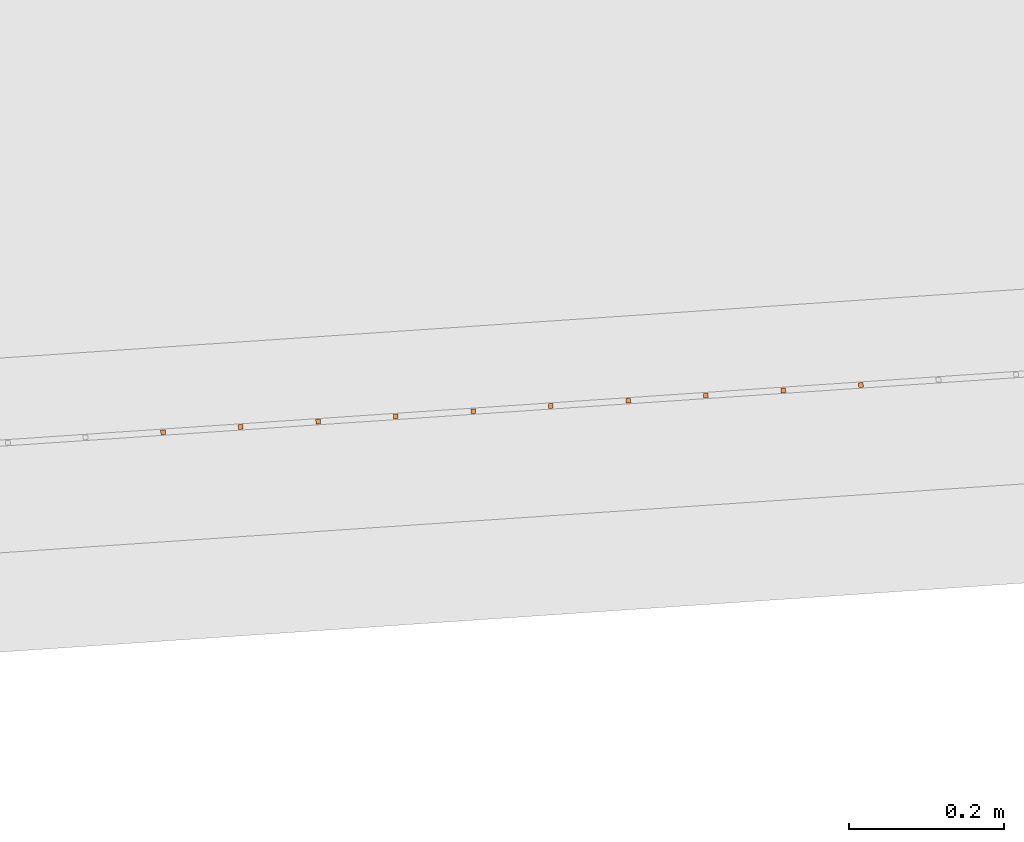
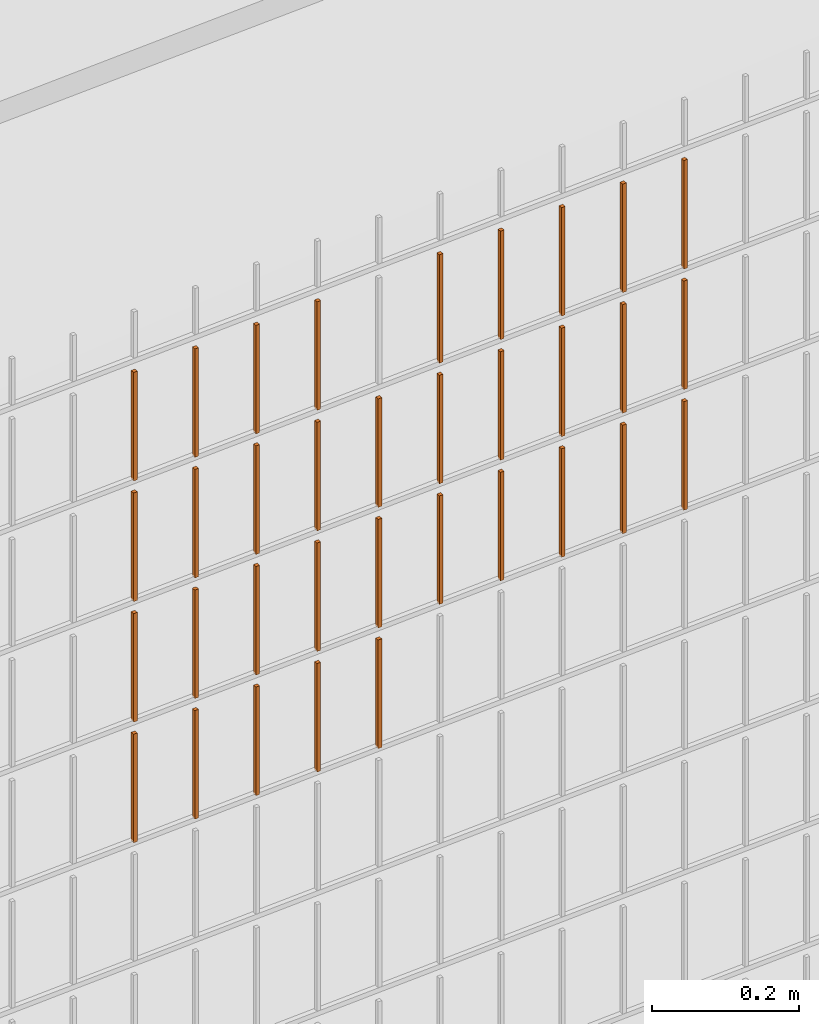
# One storey, part 268 of 1809: 34 proxies, 1 element without a shape of its own.
"""IFC2X3 building model written with IfcOpenShell, lengths in millimetres."""

from ifc_helpers import new_model, entity, si_unit, converted_unit, derived_unit, money_unit, direction, frame, origin_with_axes, place, context, subcontext, project, spatial, faceted_brep, source, transform, mapped, material, type_object, element, aggregate, save


model = new_model("IFC2X3")

# Units and contexts
model_context = context("Model", 3, precision=0.01, world=origin_with_axes(), true_north=direction((0.0, 1.0)))
body_context = subcontext(model_context, "Body", "Model", "MODEL_VIEW")
ifc_project = project(units=[si_unit("LENGTHUNIT", "METRE", prefix="MILLI"), si_unit("AREAUNIT", "SQUARE_METRE"), si_unit("VOLUMEUNIT", "CUBIC_METRE"), converted_unit("PLANEANGLEUNIT", "DEGREE", entity("IfcPlaneAngleMeasure", 0.0174532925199), si_unit("PLANEANGLEUNIT", "RADIAN"), dimensions=[0, 0, 0, 0, 0, 0, 0]), si_unit("SOLIDANGLEUNIT", "STERADIAN"), money_unit("EUR"), converted_unit("TIMEUNIT", "Year", entity("IfcTimeMeasure", 31556926.0), si_unit("TIMEUNIT", "SECOND"), dimensions=[0, 0, 1, 0, 0, 0, 0]), si_unit("MASSUNIT", "GRAM", prefix="KILO"), si_unit("THERMODYNAMICTEMPERATUREUNIT", "DEGREE_CELSIUS"), si_unit("LUMINOUSINTENSITYUNIT", "LUMEN"), si_unit("ENERGYUNIT", "JOULE", prefix="MEGA"), derived_unit("THERMALCONDUCTANCEUNIT", [(si_unit("POWERUNIT", "WATT"), 1), (si_unit("LENGTHUNIT", "METRE"), -1), (si_unit("THERMODYNAMICTEMPERATUREUNIT", "KELVIN"), -1)]), derived_unit("SPECIFICHEATCAPACITYUNIT", [(si_unit("ENERGYUNIT", "JOULE"), 1), (si_unit("MASSUNIT", "GRAM", prefix="KILO"), -1), (si_unit("THERMODYNAMICTEMPERATUREUNIT", "KELVIN"), -1)]), derived_unit("MASSDENSITYUNIT", [(si_unit("MASSUNIT", "GRAM", prefix="KILO"), 1), (si_unit("VOLUMEUNIT", "CUBIC_METRE"), -1)])], contexts=[model_context])

# Site, building, storey
site_placement = place(None, origin_with_axes())
site = spatial("IfcSite", under=ifc_project, at=site_placement, Name="Politse- ja Piirivalveameti ning Päästeameti ühishoone", CompositionType="ELEMENT")
building_placement = place(site_placement, origin_with_axes())
building = spatial("IfcBuilding", under=site, at=building_placement, Name="Politse- ja Piirivalveameti ning Päästeameti ühishoone", CompositionType="ELEMENT")
storey_placement = place(building_placement, origin_with_axes())
storey = spatial("IfcBuildingStorey", under=building, at=storey_placement, Name="Esimene korrus", CompositionType="ELEMENT", Elevation=0.0)

# Proxies
building_element_proxy_type_1 = type_object("IfcBuildingElementProxyType", Name="Railing Type", PredefinedType="NOTDEFINED")
proxy_1_placement = place(storey_placement, frame((89252.001212, -29183.4766571, 203.661247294), z_axis=(0.0, 0.0, 1.0), x_axis=(1.0, 0.0, 0.0)))
proxy_1 = element("IfcBuildingElementProxy", 1, at=proxy_1_placement, inside=storey, type_object=building_element_proxy_type_1, Name="PIIRDEAED")
ifc_material = material(Name="ET-03_Raud")
building_element_proxy_type_2 = type_object("IfcBuildingElementProxyType", Name="IfcBuildingElementProxy", PredefinedType="NOTDEFINED")
shared_shape_1 = source(origin_with_axes(), body_context, "Body", "Brep", [
    faceted_brep([(3.0, 3.0, -0.000752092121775), (-3.0, 3.0, -0.000752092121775), (-3.0, 3.0, 179.99926046), (3.0, 3.0, 179.99926046), (3.0, -3.0, 0.000752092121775), (-3.0, -3.0, 0.000752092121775), (-3.0, -3.0, 180.000764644), (3.0, -3.0, 180.000764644)], [[[0, 1, 2, 3]], [[0, 4, 5, 1]], [[1, 5, 6, 2]], [[3, 2, 6, 7]], [[4, 0, 3, 7]], [[5, 4, 7, 6]]]),
])
proxy_2_placement = place(proxy_1_placement, frame((-55799.5403352, -21066.8231314, 1813.2137117), z_axis=(0.0, 0.0, 1.0), x_axis=(1.0, 0.0, 0.0)))
proxy_2 = element("IfcBuildingElementProxy", 2, at=proxy_2_placement, type_object=building_element_proxy_type_2, material=ifc_material, Name="BALUSTER - 001", context=body_context, shape_type="MappedRepresentation", body=[
    mapped(shared_shape_1, transform((0.0, 0.0, 0.0), x_axis=(-0.0673926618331, 0.997726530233, 0.0), y_axis=(-0.997726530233, -0.0673926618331, 0.0), z_axis=(0.0, 0.0, 1.0))),
])
shared_shape_2 = source(origin_with_axes(), body_context, "Body", "Brep", [
    faceted_brep([(3.0, 3.0, -0.000752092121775), (-3.0, 3.0, -0.000752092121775), (-3.0, 3.0, 179.99926046), (3.0, 3.0, 179.99926046), (3.0, -3.0, 0.000752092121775), (-3.0, -3.0, 0.000752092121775), (-3.0, -3.0, 180.000764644), (3.0, -3.0, 180.000764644)], [[[0, 1, 2, 3]], [[0, 4, 5, 1]], [[1, 5, 6, 2]], [[3, 2, 6, 7]], [[4, 0, 3, 7]], [[5, 4, 7, 6]]]),
])
proxy_3_placement = place(proxy_1_placement, frame((-55799.5403352, -21066.8231314, 1213.2137117), z_axis=(0.0, 0.0, 1.0), x_axis=(1.0, 0.0, 0.0)))
proxy_3 = element("IfcBuildingElementProxy", 3, at=proxy_3_placement, type_object=building_element_proxy_type_2, material=ifc_material, Name="BALUSTER - 001", context=body_context, shape_type="MappedRepresentation", body=[
    mapped(shared_shape_2, transform((0.0, 0.0, 0.0), x_axis=(-0.0673926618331, 0.997726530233, 0.0), y_axis=(-0.997726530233, -0.0673926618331, 0.0), z_axis=(0.0, 0.0, 1.0))),
])
shared_shape_3 = source(origin_with_axes(), body_context, "Body", "Brep", [
    faceted_brep([(3.0, 3.0, -0.000752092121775), (-3.0, 3.0, -0.000752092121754), (-3.0, 3.0, 179.99926046), (3.0, 3.0, 179.99926046), (3.0, -3.0, 0.000752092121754), (-3.0, -3.0, 0.000752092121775), (-3.0, -3.0, 180.000764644), (3.0, -3.0, 180.000764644)], [[[0, 1, 2, 3]], [[0, 4, 5, 1]], [[1, 5, 6, 2]], [[3, 2, 6, 7]], [[4, 0, 3, 7]], [[5, 4, 7, 6]]]),
])
proxy_4_placement = place(proxy_1_placement, frame((-55200.9044171, -21026.3875343, 1813.36413013), z_axis=(0.0, 0.0, 1.0), x_axis=(1.0, 0.0, 0.0)))
proxy_4 = element("IfcBuildingElementProxy", 4, at=proxy_4_placement, type_object=building_element_proxy_type_2, material=ifc_material, Name="BALUSTER - 001", context=body_context, shape_type="MappedRepresentation", body=[
    mapped(shared_shape_3, transform((0.0, 0.0, 0.0), x_axis=(-0.0673926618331, 0.997726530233, 0.0), y_axis=(-0.997726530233, -0.0673926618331, 0.0), z_axis=(0.0, 0.0, 1.0))),
])
shared_shape_4 = source(origin_with_axes(), body_context, "Body", "Brep", [
    faceted_brep([(3.0, 3.0, -0.000752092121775), (-3.0, 3.0, -0.000752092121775), (-3.0, 3.0, 179.99926046), (3.0, 3.0, 179.99926046), (3.0, -3.0, 0.000752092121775), (-3.0, -3.0, 0.000752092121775), (-3.0, -3.0, 180.000764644), (3.0, -3.0, 180.000764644)], [[[0, 1, 2, 3]], [[0, 4, 5, 1]], [[1, 5, 6, 2]], [[3, 2, 6, 7]], [[4, 0, 3, 7]], [[5, 4, 7, 6]]]),
])
proxy_5_placement = place(proxy_1_placement, frame((-55799.5403352, -21066.8231314, 1413.2137117), z_axis=(0.0, 0.0, 1.0), x_axis=(1.0, 0.0, 0.0)))
proxy_5 = element("IfcBuildingElementProxy", 5, at=proxy_5_placement, type_object=building_element_proxy_type_2, material=ifc_material, Name="BALUSTER - 001", context=body_context, shape_type="MappedRepresentation", body=[
    mapped(shared_shape_4, transform((0.0, 0.0, 0.0), x_axis=(-0.0673926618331, 0.997726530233, 0.0), y_axis=(-0.997726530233, -0.0673926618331, 0.0), z_axis=(0.0, 0.0, 1.0))),
])
proxy_6_placement = place(proxy_1_placement, frame((-55799.5403352, -21066.8231314, 1613.2137117), z_axis=(0.0, 0.0, 1.0), x_axis=(1.0, 0.0, 0.0)))
proxy_6 = element("IfcBuildingElementProxy", 6, at=proxy_6_placement, type_object=building_element_proxy_type_2, material=ifc_material, Name="BALUSTER - 001", context=body_context, shape_type="MappedRepresentation", body=[
    mapped(shared_shape_4, transform((0.0, 0.0, 0.0), x_axis=(-0.0673926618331, 0.997726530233, 0.0), y_axis=(-0.997726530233, -0.0673926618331, 0.0), z_axis=(0.0, 0.0, 1.0))),
])
shared_shape_5 = source(origin_with_axes(), body_context, "Body", "Brep", [
    faceted_brep([(3.0, 3.0, -0.000752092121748), (-3.0, 3.0, -0.00075209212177), (-3.0, 3.0, 179.99926046), (3.0, 3.0, 179.99926046), (3.0, -3.0, 0.00075209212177), (-3.0, -3.0, 0.000752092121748), (-3.0, -3.0, 180.000764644), (3.0, -3.0, 180.000764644)], [[[0, 1, 2, 3]], [[0, 4, 5, 1]], [[1, 5, 6, 2]], [[3, 2, 6, 7]], [[4, 0, 3, 7]], [[5, 4, 7, 6]]]),
])
proxy_7_placement = place(proxy_1_placement, frame((-55999.0856413, -21080.3016637, 1813.16357223), z_axis=(0.0, 0.0, 1.0), x_axis=(1.0, 0.0, 0.0)))
proxy_7 = element("IfcBuildingElementProxy", 7, at=proxy_7_placement, type_object=building_element_proxy_type_2, material=ifc_material, Name="BALUSTER - 001", context=body_context, shape_type="MappedRepresentation", body=[
    mapped(shared_shape_5, transform((0.0, 0.0, 0.0), x_axis=(-0.0673926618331, 0.997726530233, 0.0), y_axis=(-0.997726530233, -0.0673926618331, 0.0), z_axis=(0.0, 0.0, 1.0))),
])
shared_shape_6 = source(origin_with_axes(), body_context, "Body", "Brep", [
    faceted_brep([(3.0, 3.0, -0.000752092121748), (-3.0, 3.0, -0.00075209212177), (-3.0, 3.0, 179.99926046), (3.0, 3.0, 179.99926046), (3.0, -3.0, 0.00075209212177), (-3.0, -3.0, 0.000752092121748), (-3.0, -3.0, 180.000764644), (3.0, -3.0, 180.000764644)], [[[0, 1, 2, 3]], [[0, 4, 5, 1]], [[1, 5, 6, 2]], [[3, 2, 6, 7]], [[4, 0, 3, 7]], [[5, 4, 7, 6]]]),
])
proxy_8_placement = place(proxy_1_placement, frame((-55999.0856413, -21080.3016637, 1213.16357223), z_axis=(0.0, 0.0, 1.0), x_axis=(1.0, 0.0, 0.0)))
proxy_8 = element("IfcBuildingElementProxy", 8, at=proxy_8_placement, type_object=building_element_proxy_type_2, material=ifc_material, Name="BALUSTER - 001", context=body_context, shape_type="MappedRepresentation", body=[
    mapped(shared_shape_6, transform((0.0, 0.0, 0.0), x_axis=(-0.0673926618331, 0.997726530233, 0.0), y_axis=(-0.997726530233, -0.0673926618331, 0.0), z_axis=(0.0, 0.0, 1.0))),
])
shared_shape_7 = source(origin_with_axes(), body_context, "Body", "Brep", [
    faceted_brep([(3.0, 3.0, -0.000752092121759), (-3.0, 3.0, -0.00075209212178), (-3.0, 3.0, 179.99926046), (3.0, 3.0, 179.99926046), (3.0, -3.0, 0.00075209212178), (-3.0, -3.0, 0.000752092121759), (-3.0, -3.0, 180.000764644), (3.0, -3.0, 180.000764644)], [[[0, 1, 2, 3]], [[0, 4, 5, 1]], [[1, 5, 6, 2]], [[3, 2, 6, 7]], [[4, 0, 3, 7]], [[5, 4, 7, 6]]]),
])
proxy_9_placement = place(proxy_1_placement, frame((-55899.3129882, -21073.5623976, 1213.18864197), z_axis=(0.0, 0.0, 1.0), x_axis=(1.0, 0.0, 0.0)))
proxy_9 = element("IfcBuildingElementProxy", 9, at=proxy_9_placement, type_object=building_element_proxy_type_2, material=ifc_material, Name="BALUSTER - 001", context=body_context, shape_type="MappedRepresentation", body=[
    mapped(shared_shape_7, transform((0.0, 0.0, 0.0), x_axis=(-0.0673926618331, 0.997726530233, 0.0), y_axis=(-0.997726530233, -0.0673926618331, 0.0), z_axis=(0.0, 0.0, 1.0))),
])
shared_shape_8 = source(origin_with_axes(), body_context, "Body", "Brep", [
    faceted_brep([(3.0, 3.0, -0.000752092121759), (-3.0, 3.0, -0.00075209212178), (-3.0, 3.0, 179.99926046), (3.0, 3.0, 179.99926046), (3.0, -3.0, 0.00075209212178), (-3.0, -3.0, 0.000752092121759), (-3.0, -3.0, 180.000764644), (3.0, -3.0, 180.000764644)], [[[0, 1, 2, 3]], [[0, 4, 5, 1]], [[1, 5, 6, 2]], [[3, 2, 6, 7]], [[4, 0, 3, 7]], [[5, 4, 7, 6]]]),
])
proxy_10_placement = place(proxy_1_placement, frame((-55899.3129882, -21073.5623976, 1813.18864197), z_axis=(0.0, 0.0, 1.0), x_axis=(1.0, 0.0, 0.0)))
proxy_10 = element("IfcBuildingElementProxy", 10, at=proxy_10_placement, type_object=building_element_proxy_type_2, material=ifc_material, Name="BALUSTER - 001", context=body_context, shape_type="MappedRepresentation", body=[
    mapped(shared_shape_8, transform((0.0, 0.0, 0.0), x_axis=(-0.0673926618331, 0.997726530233, 0.0), y_axis=(-0.997726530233, -0.0673926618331, 0.0), z_axis=(0.0, 0.0, 1.0))),
])
shared_shape_9 = source(origin_with_axes(), body_context, "Body", "Brep", [
    faceted_brep([(3.0, 3.0, -0.000752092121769), (-3.0, 3.0, -0.00075209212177), (-3.0, 3.0, 179.99926046), (3.0, 3.0, 179.99926046), (3.0, -3.0, 0.00075209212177), (-3.0, -3.0, 0.000752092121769), (-3.0, -3.0, 180.000764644), (3.0, -3.0, 180.000764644)], [[[0, 1, 2, 3]], [[0, 4, 5, 1]], [[1, 5, 6, 2]], [[3, 2, 6, 7]], [[4, 0, 3, 7]], [[5, 4, 7, 6]]]),
])
proxy_11_placement = place(proxy_1_placement, frame((-55500.2223761, -21046.6053328, 1813.28892092), z_axis=(0.0, 0.0, 1.0), x_axis=(1.0, 0.0, 0.0)))
proxy_11 = element("IfcBuildingElementProxy", 11, at=proxy_11_placement, type_object=building_element_proxy_type_2, material=ifc_material, Name="BALUSTER - 001", context=body_context, shape_type="MappedRepresentation", body=[
    mapped(shared_shape_9, transform((0.0, 0.0, 0.0), x_axis=(-0.0673926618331, 0.997726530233, 0.0), y_axis=(-0.997726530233, -0.0673926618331, 0.0), z_axis=(0.0, 0.0, 1.0))),
])
shared_shape_10 = source(origin_with_axes(), body_context, "Body", "Brep", [
    faceted_brep([(3.0, 3.0, -0.000752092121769), (-3.0, 3.0, -0.00075209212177), (-3.0, 3.0, 179.99926046), (3.0, 3.0, 179.99926046), (3.0, -3.0, 0.00075209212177), (-3.0, -3.0, 0.000752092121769), (-3.0, -3.0, 180.000764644), (3.0, -3.0, 180.000764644)], [[[0, 1, 2, 3]], [[0, 4, 5, 1]], [[1, 5, 6, 2]], [[3, 2, 6, 7]], [[4, 0, 3, 7]], [[5, 4, 7, 6]]]),
])
proxy_12_placement = place(proxy_1_placement, frame((-55400.4497231, -21039.8660666, 1413.31399065), z_axis=(0.0, 0.0, 1.0), x_axis=(1.0, 0.0, 0.0)))
proxy_12 = element("IfcBuildingElementProxy", 12, at=proxy_12_placement, type_object=building_element_proxy_type_2, material=ifc_material, Name="BALUSTER - 001", context=body_context, shape_type="MappedRepresentation", body=[
    mapped(shared_shape_10, transform((0.0, 0.0, 0.0), x_axis=(-0.0673926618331, 0.997726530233, 0.0), y_axis=(-0.997726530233, -0.0673926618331, 0.0), z_axis=(0.0, 0.0, 1.0))),
])
proxy_13_placement = place(proxy_1_placement, frame((-55400.4497231, -21039.8660666, 1613.31399065), z_axis=(0.0, 0.0, 1.0), x_axis=(1.0, 0.0, 0.0)))
proxy_13 = element("IfcBuildingElementProxy", 13, at=proxy_13_placement, type_object=building_element_proxy_type_2, material=ifc_material, Name="BALUSTER - 001", context=body_context, shape_type="MappedRepresentation", body=[
    mapped(shared_shape_10, transform((0.0, 0.0, 0.0), x_axis=(-0.0673926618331, 0.997726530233, 0.0), y_axis=(-0.997726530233, -0.0673926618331, 0.0), z_axis=(0.0, 0.0, 1.0))),
])
shared_shape_11 = source(origin_with_axes(), body_context, "Body", "Brep", [
    faceted_brep([(3.0, 3.0, -0.000752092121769), (-3.0, 3.0, -0.00075209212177), (-3.0, 3.0, 179.99926046), (3.0, 3.0, 179.99926046), (3.0, -3.0, 0.00075209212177), (-3.0, -3.0, 0.000752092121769), (-3.0, -3.0, 180.000764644), (3.0, -3.0, 180.000764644)], [[[0, 1, 2, 3]], [[0, 4, 5, 1]], [[1, 5, 6, 2]], [[3, 2, 6, 7]], [[4, 0, 3, 7]], [[5, 4, 7, 6]]]),
])
proxy_14_placement = place(proxy_1_placement, frame((-55400.4497231, -21039.8660666, 1813.31399065), z_axis=(0.0, 0.0, 1.0), x_axis=(1.0, 0.0, 0.0)))
proxy_14 = element("IfcBuildingElementProxy", 14, at=proxy_14_placement, type_object=building_element_proxy_type_2, material=ifc_material, Name="BALUSTER - 001", context=body_context, shape_type="MappedRepresentation", body=[
    mapped(shared_shape_11, transform((0.0, 0.0, 0.0), x_axis=(-0.0673926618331, 0.997726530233, 0.0), y_axis=(-0.997726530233, -0.0673926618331, 0.0), z_axis=(0.0, 0.0, 1.0))),
])
shared_shape_12 = source(origin_with_axes(), body_context, "Body", "Brep", [
    faceted_brep([(3.0, 3.0, -0.000752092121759), (-3.0, 3.0, -0.00075209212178), (-3.0, 3.0, 179.99926046), (3.0, 3.0, 179.99926046), (3.0, -3.0, 0.00075209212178), (-3.0, -3.0, 0.000752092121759), (-3.0, -3.0, 180.000764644), (3.0, -3.0, 180.000764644)], [[[0, 1, 2, 3]], [[0, 4, 5, 1]], [[1, 5, 6, 2]], [[3, 2, 6, 7]], [[4, 0, 3, 7]], [[5, 4, 7, 6]]]),
])
proxy_15_placement = place(proxy_1_placement, frame((-55699.7676822, -21060.0838652, 1213.23878144), z_axis=(0.0, 0.0, 1.0), x_axis=(1.0, 0.0, 0.0)))
proxy_15 = element("IfcBuildingElementProxy", 15, at=proxy_15_placement, type_object=building_element_proxy_type_2, material=ifc_material, Name="BALUSTER - 001", context=body_context, shape_type="MappedRepresentation", body=[
    mapped(shared_shape_12, transform((0.0, 0.0, 0.0), x_axis=(-0.0673926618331, 0.997726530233, 0.0), y_axis=(-0.997726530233, -0.0673926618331, 0.0), z_axis=(0.0, 0.0, 1.0))),
])
shared_shape_13 = source(origin_with_axes(), body_context, "Body", "Brep", [
    faceted_brep([(3.0, 3.0, -0.000752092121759), (-3.0, 3.0, -0.000752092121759), (-3.0, 3.0, 179.99926046), (3.0, 3.0, 179.99926046), (3.0, -3.0, 0.000752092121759), (-3.0, -3.0, 0.000752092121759), (-3.0, -3.0, 180.000764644), (3.0, -3.0, 180.000764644)], [[[0, 1, 2, 3]], [[0, 4, 5, 1]], [[1, 5, 6, 2]], [[3, 2, 6, 7]], [[4, 0, 3, 7]], [[5, 4, 7, 6]]]),
])
proxy_16_placement = place(proxy_1_placement, frame((-55599.9950292, -21053.344599, 1813.26385118), z_axis=(0.0, 0.0, 1.0), x_axis=(1.0, 0.0, 0.0)))
proxy_16 = element("IfcBuildingElementProxy", 16, at=proxy_16_placement, type_object=building_element_proxy_type_2, material=ifc_material, Name="BALUSTER - 001", context=body_context, shape_type="MappedRepresentation", body=[
    mapped(shared_shape_13, transform((0.0, 0.0, 0.0), x_axis=(-0.0673926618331, 0.997726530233, 0.0), y_axis=(-0.997726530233, -0.0673926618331, 0.0), z_axis=(0.0, 0.0, 1.0))),
])
shared_shape_14 = source(origin_with_axes(), body_context, "Body", "Brep", [
    faceted_brep([(3.0, 3.0, -0.000752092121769), (-3.0, 3.0, -0.00075209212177), (-3.0, 3.0, 179.99926046), (3.0, 3.0, 179.99926046), (3.0, -3.0, 0.00075209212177), (-3.0, -3.0, 0.000752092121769), (-3.0, -3.0, 180.000764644), (3.0, -3.0, 180.000764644)], [[[0, 1, 2, 3]], [[0, 4, 5, 1]], [[1, 5, 6, 2]], [[3, 2, 6, 7]], [[4, 0, 3, 7]], [[5, 4, 7, 6]]]),
])
proxy_17_placement = place(proxy_1_placement, frame((-56098.8582943, -21087.0409299, 1813.13850249), z_axis=(0.0, 0.0, 1.0), x_axis=(1.0, 0.0, 0.0)))
proxy_17 = element("IfcBuildingElementProxy", 17, at=proxy_17_placement, type_object=building_element_proxy_type_2, material=ifc_material, Name="BALUSTER - 001", context=body_context, shape_type="MappedRepresentation", body=[
    mapped(shared_shape_14, transform((0.0, 0.0, 0.0), x_axis=(-0.0673926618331, 0.997726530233, 0.0), y_axis=(-0.997726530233, -0.0673926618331, 0.0), z_axis=(0.0, 0.0, 1.0))),
])
shared_shape_15 = source(origin_with_axes(), body_context, "Body", "Brep", [
    faceted_brep([(3.0, 3.0, -0.000752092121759), (-3.0, 3.0, -0.000752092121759), (-3.0, 3.0, 179.99926046), (3.0, 3.0, 179.99926046), (3.0, -3.0, 0.000752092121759), (-3.0, -3.0, 0.000752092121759), (-3.0, -3.0, 180.000764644), (3.0, -3.0, 180.000764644)], [[[0, 1, 2, 3]], [[0, 4, 5, 1]], [[1, 5, 6, 2]], [[3, 2, 6, 7]], [[4, 0, 3, 7]], [[5, 4, 7, 6]]]),
])
proxy_18_placement = place(proxy_1_placement, frame((-55599.9950292, -21053.344599, 1413.26385118), z_axis=(0.0, 0.0, 1.0), x_axis=(1.0, 0.0, 0.0)))
proxy_18 = element("IfcBuildingElementProxy", 18, at=proxy_18_placement, type_object=building_element_proxy_type_2, material=ifc_material, Name="BALUSTER - 001", context=body_context, shape_type="MappedRepresentation", body=[
    mapped(shared_shape_15, transform((0.0, 0.0, 0.0), x_axis=(-0.0673926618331, 0.997726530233, 0.0), y_axis=(-0.997726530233, -0.0673926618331, 0.0), z_axis=(0.0, 0.0, 1.0))),
])
proxy_19_placement = place(proxy_1_placement, frame((-55599.9950292, -21053.344599, 1613.26385118), z_axis=(0.0, 0.0, 1.0), x_axis=(1.0, 0.0, 0.0)))
proxy_19 = element("IfcBuildingElementProxy", 19, at=proxy_19_placement, type_object=building_element_proxy_type_2, material=ifc_material, Name="BALUSTER - 001", context=body_context, shape_type="MappedRepresentation", body=[
    mapped(shared_shape_15, transform((0.0, 0.0, 0.0), x_axis=(-0.0673926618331, 0.997726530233, 0.0), y_axis=(-0.997726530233, -0.0673926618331, 0.0), z_axis=(0.0, 0.0, 1.0))),
])
shared_shape_16 = source(origin_with_axes(), body_context, "Body", "Brep", [
    faceted_brep([(3.0, 3.0, -0.000752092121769), (-3.0, 3.0, -0.00075209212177), (-3.0, 3.0, 179.99926046), (3.0, 3.0, 179.99926046), (3.0, -3.0, 0.00075209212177), (-3.0, -3.0, 0.000752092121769), (-3.0, -3.0, 180.000764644), (3.0, -3.0, 180.000764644)], [[[0, 1, 2, 3]], [[0, 4, 5, 1]], [[1, 5, 6, 2]], [[3, 2, 6, 7]], [[4, 0, 3, 7]], [[5, 4, 7, 6]]]),
])
proxy_20_placement = place(proxy_1_placement, frame((-56098.8582943, -21087.0409299, 1213.13850249), z_axis=(0.0, 0.0, 1.0), x_axis=(1.0, 0.0, 0.0)))
proxy_20 = element("IfcBuildingElementProxy", 20, at=proxy_20_placement, type_object=building_element_proxy_type_2, material=ifc_material, Name="BALUSTER - 001", context=body_context, shape_type="MappedRepresentation", body=[
    mapped(shared_shape_16, transform((0.0, 0.0, 0.0), x_axis=(-0.0673926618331, 0.997726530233, 0.0), y_axis=(-0.997726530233, -0.0673926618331, 0.0), z_axis=(0.0, 0.0, 1.0))),
])
shared_shape_17 = source(origin_with_axes(), body_context, "Body", "Brep", [
    faceted_brep([(3.0, 3.0, -0.000752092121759), (-3.0, 3.0, -0.00075209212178), (-3.0, 3.0, 179.99926046), (3.0, 3.0, 179.99926046), (3.0, -3.0, 0.00075209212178), (-3.0, -3.0, 0.000752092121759), (-3.0, -3.0, 180.000764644), (3.0, -3.0, 180.000764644)], [[[0, 1, 2, 3]], [[0, 4, 5, 1]], [[1, 5, 6, 2]], [[3, 2, 6, 7]], [[4, 0, 3, 7]], [[5, 4, 7, 6]]]),
])
proxy_21_placement = place(proxy_1_placement, frame((-55899.3129882, -21073.5623976, 1413.18864197), z_axis=(0.0, 0.0, 1.0), x_axis=(1.0, 0.0, 0.0)))
proxy_21 = element("IfcBuildingElementProxy", 21, at=proxy_21_placement, type_object=building_element_proxy_type_2, material=ifc_material, Name="BALUSTER - 001", context=body_context, shape_type="MappedRepresentation", body=[
    mapped(shared_shape_17, transform((0.0, 0.0, 0.0), x_axis=(-0.0673926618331, 0.997726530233, 0.0), y_axis=(-0.997726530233, -0.0673926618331, 0.0), z_axis=(0.0, 0.0, 1.0))),
])
proxy_22_placement = place(proxy_1_placement, frame((-55899.3129882, -21073.5623976, 1613.18864197), z_axis=(0.0, 0.0, 1.0), x_axis=(1.0, 0.0, 0.0)))
proxy_22 = element("IfcBuildingElementProxy", 22, at=proxy_22_placement, type_object=building_element_proxy_type_2, material=ifc_material, Name="BALUSTER - 001", context=body_context, shape_type="MappedRepresentation", body=[
    mapped(shared_shape_17, transform((0.0, 0.0, 0.0), x_axis=(-0.0673926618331, 0.997726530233, 0.0), y_axis=(-0.997726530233, -0.0673926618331, 0.0), z_axis=(0.0, 0.0, 1.0))),
])
shared_shape_18 = source(origin_with_axes(), body_context, "Body", "Brep", [
    faceted_brep([(3.0, 3.0, -0.000752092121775), (-3.0, 3.0, -0.000752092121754), (-3.0, 3.0, 179.99926046), (3.0, 3.0, 179.99926046), (3.0, -3.0, 0.000752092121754), (-3.0, -3.0, 0.000752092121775), (-3.0, -3.0, 180.000764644), (3.0, -3.0, 180.000764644)], [[[0, 1, 2, 3]], [[0, 4, 5, 1]], [[1, 5, 6, 2]], [[3, 2, 6, 7]], [[4, 0, 3, 7]], [[5, 4, 7, 6]]]),
])
proxy_23_placement = place(proxy_1_placement, frame((-55200.9044171, -21026.3875343, 1413.36413013), z_axis=(0.0, 0.0, 1.0), x_axis=(1.0, 0.0, 0.0)))
proxy_23 = element("IfcBuildingElementProxy", 23, at=proxy_23_placement, type_object=building_element_proxy_type_2, material=ifc_material, Name="BALUSTER - 001", context=body_context, shape_type="MappedRepresentation", body=[
    mapped(shared_shape_18, transform((0.0, 0.0, 0.0), x_axis=(-0.0673926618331, 0.997726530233, 0.0), y_axis=(-0.997726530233, -0.0673926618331, 0.0), z_axis=(0.0, 0.0, 1.0))),
])
proxy_24_placement = place(proxy_1_placement, frame((-55200.9044171, -21026.3875343, 1613.36413013), z_axis=(0.0, 0.0, 1.0), x_axis=(1.0, 0.0, 0.0)))
proxy_24 = element("IfcBuildingElementProxy", 24, at=proxy_24_placement, type_object=building_element_proxy_type_2, material=ifc_material, Name="BALUSTER - 001", context=body_context, shape_type="MappedRepresentation", body=[
    mapped(shared_shape_18, transform((0.0, 0.0, 0.0), x_axis=(-0.0673926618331, 0.997726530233, 0.0), y_axis=(-0.997726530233, -0.0673926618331, 0.0), z_axis=(0.0, 0.0, 1.0))),
])
shared_shape_19 = source(origin_with_axes(), body_context, "Body", "Brep", [
    faceted_brep([(3.0, 3.0, -0.00075209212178), (-3.0, 3.0, -0.000752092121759), (-3.0, 3.0, 179.99926046), (3.0, 3.0, 179.99926046), (3.0, -3.0, 0.000752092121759), (-3.0, -3.0, 0.00075209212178), (-3.0, -3.0, 180.000764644), (3.0, -3.0, 180.000764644)], [[[0, 1, 2, 3]], [[0, 4, 5, 1]], [[1, 5, 6, 2]], [[3, 2, 6, 7]], [[4, 0, 3, 7]], [[5, 4, 7, 6]]]),
])
proxy_25_placement = place(proxy_1_placement, frame((-55300.6770701, -21033.1268005, 1413.33906039), z_axis=(0.0, 0.0, 1.0), x_axis=(1.0, 0.0, 0.0)))
proxy_25 = element("IfcBuildingElementProxy", 25, at=proxy_25_placement, type_object=building_element_proxy_type_2, material=ifc_material, Name="BALUSTER - 001", context=body_context, shape_type="MappedRepresentation", body=[
    mapped(shared_shape_19, transform((0.0, 0.0, 0.0), x_axis=(-0.0673926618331, 0.997726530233, 0.0), y_axis=(-0.997726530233, -0.0673926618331, 0.0), z_axis=(0.0, 0.0, 1.0))),
])
proxy_26_placement = place(proxy_1_placement, frame((-55300.6770701, -21033.1268005, 1613.33906039), z_axis=(0.0, 0.0, 1.0), x_axis=(1.0, 0.0, 0.0)))
proxy_26 = element("IfcBuildingElementProxy", 26, at=proxy_26_placement, type_object=building_element_proxy_type_2, material=ifc_material, Name="BALUSTER - 001", context=body_context, shape_type="MappedRepresentation", body=[
    mapped(shared_shape_19, transform((0.0, 0.0, 0.0), x_axis=(-0.0673926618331, 0.997726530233, 0.0), y_axis=(-0.997726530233, -0.0673926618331, 0.0), z_axis=(0.0, 0.0, 1.0))),
])
shared_shape_20 = source(origin_with_axes(), body_context, "Body", "Brep", [
    faceted_brep([(3.0, 3.0, -0.000752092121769), (-3.0, 3.0, -0.00075209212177), (-3.0, 3.0, 179.99926046), (3.0, 3.0, 179.99926046), (3.0, -3.0, 0.00075209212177), (-3.0, -3.0, 0.000752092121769), (-3.0, -3.0, 180.000764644), (3.0, -3.0, 180.000764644)], [[[0, 1, 2, 3]], [[0, 4, 5, 1]], [[1, 5, 6, 2]], [[3, 2, 6, 7]], [[4, 0, 3, 7]], [[5, 4, 7, 6]]]),
])
proxy_27_placement = place(proxy_1_placement, frame((-55500.2223761, -21046.6053328, 1413.28892092), z_axis=(0.0, 0.0, 1.0), x_axis=(1.0, 0.0, 0.0)))
proxy_27 = element("IfcBuildingElementProxy", 27, at=proxy_27_placement, type_object=building_element_proxy_type_2, material=ifc_material, Name="BALUSTER - 001", context=body_context, shape_type="MappedRepresentation", body=[
    mapped(shared_shape_20, transform((0.0, 0.0, 0.0), x_axis=(-0.0673926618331, 0.997726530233, 0.0), y_axis=(-0.997726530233, -0.0673926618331, 0.0), z_axis=(0.0, 0.0, 1.0))),
])
proxy_28_placement = place(proxy_1_placement, frame((-55500.2223761, -21046.6053328, 1613.28892092), z_axis=(0.0, 0.0, 1.0), x_axis=(1.0, 0.0, 0.0)))
proxy_28 = element("IfcBuildingElementProxy", 28, at=proxy_28_placement, type_object=building_element_proxy_type_2, material=ifc_material, Name="BALUSTER - 001", context=body_context, shape_type="MappedRepresentation", body=[
    mapped(shared_shape_20, transform((0.0, 0.0, 0.0), x_axis=(-0.0673926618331, 0.997726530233, 0.0), y_axis=(-0.997726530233, -0.0673926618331, 0.0), z_axis=(0.0, 0.0, 1.0))),
])
shared_shape_21 = source(origin_with_axes(), body_context, "Body", "Brep", [
    faceted_brep([(3.0, 3.0, -0.000752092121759), (-3.0, 3.0, -0.00075209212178), (-3.0, 3.0, 179.99926046), (3.0, 3.0, 179.99926046), (3.0, -3.0, 0.00075209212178), (-3.0, -3.0, 0.000752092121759), (-3.0, -3.0, 180.000764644), (3.0, -3.0, 180.000764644)], [[[0, 1, 2, 3]], [[0, 4, 5, 1]], [[1, 5, 6, 2]], [[3, 2, 6, 7]], [[4, 0, 3, 7]], [[5, 4, 7, 6]]]),
])
proxy_29_placement = place(proxy_1_placement, frame((-55699.7676822, -21060.0838652, 1413.23878144), z_axis=(0.0, 0.0, 1.0), x_axis=(1.0, 0.0, 0.0)))
proxy_29 = element("IfcBuildingElementProxy", 29, at=proxy_29_placement, type_object=building_element_proxy_type_2, material=ifc_material, Name="BALUSTER - 001", context=body_context, shape_type="MappedRepresentation", body=[
    mapped(shared_shape_21, transform((0.0, 0.0, 0.0), x_axis=(-0.0673926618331, 0.997726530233, 0.0), y_axis=(-0.997726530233, -0.0673926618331, 0.0), z_axis=(0.0, 0.0, 1.0))),
])
proxy_30_placement = place(proxy_1_placement, frame((-55699.7676822, -21060.0838652, 1613.23878144), z_axis=(0.0, 0.0, 1.0), x_axis=(1.0, 0.0, 0.0)))
proxy_30 = element("IfcBuildingElementProxy", 30, at=proxy_30_placement, type_object=building_element_proxy_type_2, material=ifc_material, Name="BALUSTER - 001", context=body_context, shape_type="MappedRepresentation", body=[
    mapped(shared_shape_21, transform((0.0, 0.0, 0.0), x_axis=(-0.0673926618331, 0.997726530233, 0.0), y_axis=(-0.997726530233, -0.0673926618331, 0.0), z_axis=(0.0, 0.0, 1.0))),
])
shared_shape_22 = source(origin_with_axes(), body_context, "Body", "Brep", [
    faceted_brep([(3.0, 3.0, -0.000752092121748), (-3.0, 3.0, -0.00075209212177), (-3.0, 3.0, 179.99926046), (3.0, 3.0, 179.99926046), (3.0, -3.0, 0.00075209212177), (-3.0, -3.0, 0.000752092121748), (-3.0, -3.0, 180.000764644), (3.0, -3.0, 180.000764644)], [[[0, 1, 2, 3]], [[0, 4, 5, 1]], [[1, 5, 6, 2]], [[3, 2, 6, 7]], [[4, 0, 3, 7]], [[5, 4, 7, 6]]]),
])
proxy_31_placement = place(proxy_1_placement, frame((-55999.0856413, -21080.3016637, 1413.16357223), z_axis=(0.0, 0.0, 1.0), x_axis=(1.0, 0.0, 0.0)))
proxy_31 = element("IfcBuildingElementProxy", 31, at=proxy_31_placement, type_object=building_element_proxy_type_2, material=ifc_material, Name="BALUSTER - 001", context=body_context, shape_type="MappedRepresentation", body=[
    mapped(shared_shape_22, transform((0.0, 0.0, 0.0), x_axis=(-0.0673926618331, 0.997726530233, 0.0), y_axis=(-0.997726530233, -0.0673926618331, 0.0), z_axis=(0.0, 0.0, 1.0))),
])
proxy_32_placement = place(proxy_1_placement, frame((-55999.0856413, -21080.3016637, 1613.16357223), z_axis=(0.0, 0.0, 1.0), x_axis=(1.0, 0.0, 0.0)))
proxy_32 = element("IfcBuildingElementProxy", 32, at=proxy_32_placement, type_object=building_element_proxy_type_2, material=ifc_material, Name="BALUSTER - 001", context=body_context, shape_type="MappedRepresentation", body=[
    mapped(shared_shape_22, transform((0.0, 0.0, 0.0), x_axis=(-0.0673926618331, 0.997726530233, 0.0), y_axis=(-0.997726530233, -0.0673926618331, 0.0), z_axis=(0.0, 0.0, 1.0))),
])
shared_shape_23 = source(origin_with_axes(), body_context, "Body", "Brep", [
    faceted_brep([(3.0, 3.0, -0.000752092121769), (-3.0, 3.0, -0.00075209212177), (-3.0, 3.0, 179.99926046), (3.0, 3.0, 179.99926046), (3.0, -3.0, 0.00075209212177), (-3.0, -3.0, 0.000752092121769), (-3.0, -3.0, 180.000764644), (3.0, -3.0, 180.000764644)], [[[0, 1, 2, 3]], [[0, 4, 5, 1]], [[1, 5, 6, 2]], [[3, 2, 6, 7]], [[4, 0, 3, 7]], [[5, 4, 7, 6]]]),
])
proxy_33_placement = place(proxy_1_placement, frame((-56098.8582943, -21087.0409299, 1413.13850249), z_axis=(0.0, 0.0, 1.0), x_axis=(1.0, 0.0, 0.0)))
proxy_33 = element("IfcBuildingElementProxy", 33, at=proxy_33_placement, type_object=building_element_proxy_type_2, material=ifc_material, Name="BALUSTER - 001", context=body_context, shape_type="MappedRepresentation", body=[
    mapped(shared_shape_23, transform((0.0, 0.0, 0.0), x_axis=(-0.0673926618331, 0.997726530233, 0.0), y_axis=(-0.997726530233, -0.0673926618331, 0.0), z_axis=(0.0, 0.0, 1.0))),
])
proxy_34_placement = place(proxy_1_placement, frame((-56098.8582943, -21087.0409299, 1613.13850249), z_axis=(0.0, 0.0, 1.0), x_axis=(1.0, 0.0, 0.0)))
proxy_34 = element("IfcBuildingElementProxy", 34, at=proxy_34_placement, type_object=building_element_proxy_type_2, material=ifc_material, Name="BALUSTER - 001", context=body_context, shape_type="MappedRepresentation", body=[
    mapped(shared_shape_23, transform((0.0, 0.0, 0.0), x_axis=(-0.0673926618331, 0.997726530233, 0.0), y_axis=(-0.997726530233, -0.0673926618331, 0.0), z_axis=(0.0, 0.0, 1.0))),
])
shared_shape_24 = source(origin_with_axes(), body_context, "Body", "Brep", [
    faceted_brep([(3.0, 3.0, -0.00075209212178), (-3.0, 3.0, -0.000752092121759), (-3.0, 3.0, 179.99926046), (3.0, 3.0, 179.99926046), (3.0, -3.0, 0.000752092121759), (-3.0, -3.0, 0.00075209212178), (-3.0, -3.0, 180.000764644), (3.0, -3.0, 180.000764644)], [[[0, 1, 2, 3]], [[0, 4, 5, 1]], [[1, 5, 6, 2]], [[3, 2, 6, 7]], [[4, 0, 3, 7]], [[5, 4, 7, 6]]]),
])
proxy_35_placement = place(proxy_1_placement, frame((-55300.6770701, -21033.1268005, 1813.33906039), z_axis=(0.0, 0.0, 1.0), x_axis=(1.0, 0.0, 0.0)))
proxy_35 = element("IfcBuildingElementProxy", 35, at=proxy_35_placement, type_object=building_element_proxy_type_2, material=ifc_material, Name="BALUSTER - 001", context=body_context, shape_type="MappedRepresentation", body=[
    mapped(shared_shape_24, transform((0.0, 0.0, 0.0), x_axis=(-0.0673926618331, 0.997726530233, 0.0), y_axis=(-0.997726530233, -0.0673926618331, 0.0), z_axis=(0.0, 0.0, 1.0))),
])
aggregate(proxy_1, [proxy_15, proxy_3, proxy_9, proxy_8, proxy_20, proxy_23, proxy_25, proxy_12, proxy_27, proxy_18, proxy_29, proxy_5, proxy_21, proxy_31, proxy_33, proxy_24, proxy_26, proxy_13, proxy_28, proxy_19, proxy_30, proxy_6, proxy_22, proxy_32, proxy_34, proxy_4, proxy_35, proxy_14, proxy_11, proxy_16, proxy_2, proxy_10, proxy_7, proxy_17])

save(model, "model.ifc")
